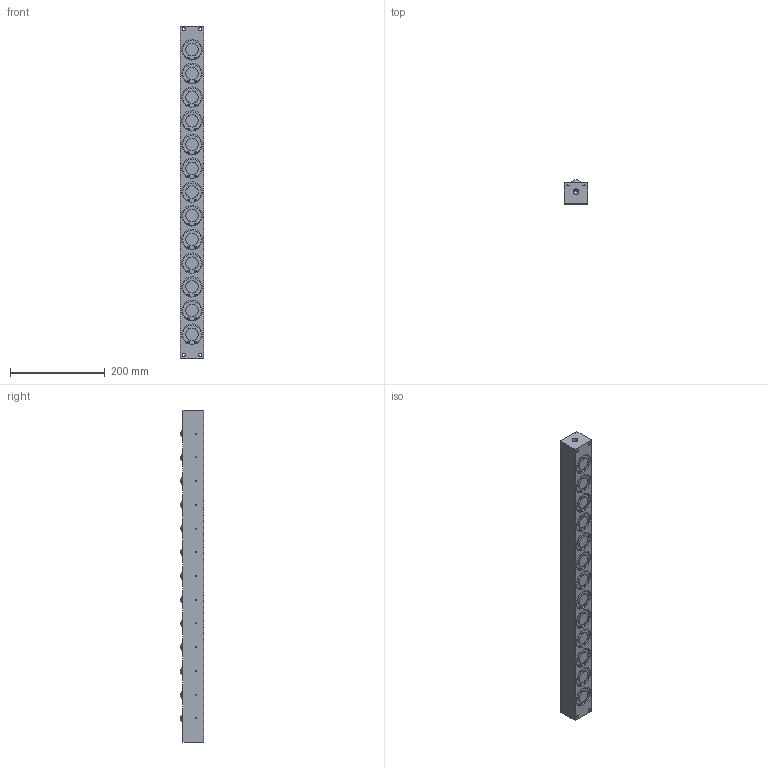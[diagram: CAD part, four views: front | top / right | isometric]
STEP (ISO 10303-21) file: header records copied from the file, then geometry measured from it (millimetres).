
FILE_DESCRIPTION (( 'STEP AP203' ), '1' );
FILE_NAME ('PVL55SW-13.STEP', '2016-01-06T02:20:33', ( '' ), ( '' ), 'SwSTEP 2.0', 'SolidWorks 2013', '' );
FILE_SCHEMA (( 'CONFIG_CONTROL_DESIGN' ));
Length unit declared in the file: millimetre
Products named in the file (1): PVL55SW-13
Bounding box: 49 x 50 x 700 mm (x, y, z)
Volume: 1480943.4 mm3; surface area: 174766.7 mm2
Topology: 2 solids, 2 shells, 633 faces, 1475 edges, 941 vertices
Faces by surface type: cylinder 386, plane 163, cone 58, sphere 26
Entity records: 18138 total; most frequent: DIRECTION 3541, CARTESIAN_POINT 2994, ORIENTED_EDGE 2838, AXIS2_PLACEMENT_3D 1488, EDGE_CURVE 1419, VERTEX_POINT 941, CIRCLE 854, EDGE_LOOP 792
